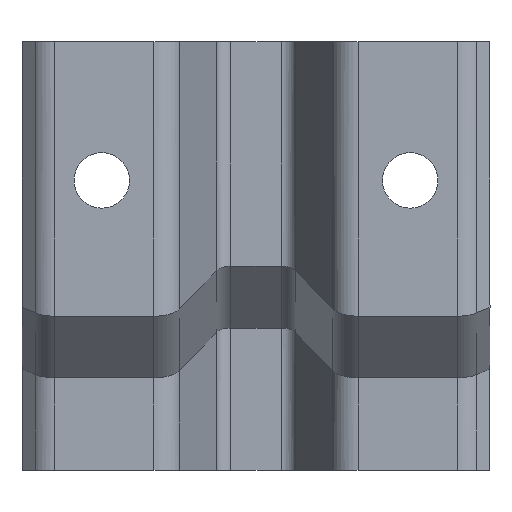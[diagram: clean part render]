
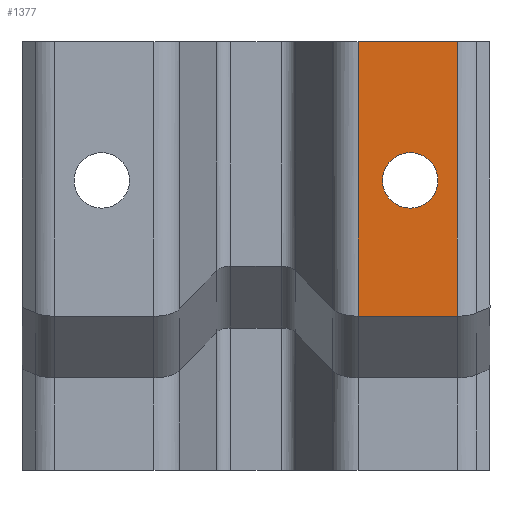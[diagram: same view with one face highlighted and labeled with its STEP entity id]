
A CAD part, front view. The second image highlights one B-rep face of the part: STEP entity #1377.
In plain terms, the highlighted planar face has unit normal (0, -1, 0).
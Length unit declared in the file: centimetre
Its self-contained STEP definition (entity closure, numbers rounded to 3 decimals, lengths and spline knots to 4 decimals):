
#17=FACE_BOUND('',#199,.T.);
#27=PLANE('',#1483);
#109=FACE_OUTER_BOUND('',#198,.T.);
#198=EDGE_LOOP('',(#981,#982,#983,#984));
#199=EDGE_LOOP('',(#985));
#281=LINE('',#2056,#431);
#283=LINE('',#2066,#433);
#305=LINE('',#2122,#455);
#306=LINE('',#2123,#456);
#431=VECTOR('',#1625,0.1);
#433=VECTOR('',#1635,0.1);
#455=VECTOR('',#1689,0.1);
#456=VECTOR('',#1690,0.1);
#575=CIRCLE('',#1454,0.9);
#603=VERTEX_POINT('',#2028);
#612=VERTEX_POINT('',#2053);
#613=VERTEX_POINT('',#2055);
#614=VERTEX_POINT('',#2059);
#617=VERTEX_POINT('',#2064);
#720=EDGE_CURVE('',#603,#603,#575,.T.);
#732=EDGE_CURVE('',#612,#613,#281,.T.);
#737=EDGE_CURVE('',#614,#617,#283,.T.);
#765=EDGE_CURVE('',#617,#613,#305,.T.);
#766=EDGE_CURVE('',#614,#612,#306,.T.);
#981=ORIENTED_EDGE('',*,*,#765,.T.);
#982=ORIENTED_EDGE('',*,*,#732,.F.);
#983=ORIENTED_EDGE('',*,*,#766,.F.);
#984=ORIENTED_EDGE('',*,*,#737,.T.);
#985=ORIENTED_EDGE('',*,*,#720,.T.);
#1377=ADVANCED_FACE('',(#109,#17),#27,.T.);
#1454=AXIS2_PLACEMENT_3D('',#2030,#1599,#1600);
#1483=AXIS2_PLACEMENT_3D('',#2121,#1687,#1688);
#1599=DIRECTION('center_axis',(0.,1.,0.));
#1600=DIRECTION('ref_axis',(1.,0.,0.));
#1625=DIRECTION('',(0.,0.,1.));
#1635=DIRECTION('',(0.,0.,1.));
#1687=DIRECTION('center_axis',(0.,-1.,0.));
#1688=DIRECTION('ref_axis',(0.,0.,-1.));
#1689=DIRECTION('',(-1.,0.,0.));
#1690=DIRECTION('',(-1.,0.,0.));
#2028=CARTESIAN_POINT('',(-51.8958,153.6396,9.4));
#2030=CARTESIAN_POINT('Origin',(-50.9958,153.6396,9.4));
#2053=CARTESIAN_POINT('',(-52.685,153.6396,5.));
#2055=CARTESIAN_POINT('',(-52.685,153.6396,13.9));
#2056=CARTESIAN_POINT('',(-52.685,153.6396,5.));
#2059=CARTESIAN_POINT('',(-49.4706,153.6396,5.));
#2064=CARTESIAN_POINT('',(-49.4706,153.6396,13.9));
#2066=CARTESIAN_POINT('',(-49.4706,153.6396,5.));
#2121=CARTESIAN_POINT('Origin',(-49.4706,153.6396,5.));
#2122=CARTESIAN_POINT('',(-52.685,153.6396,13.9));
#2123=CARTESIAN_POINT('',(-52.685,153.6396,5.));
